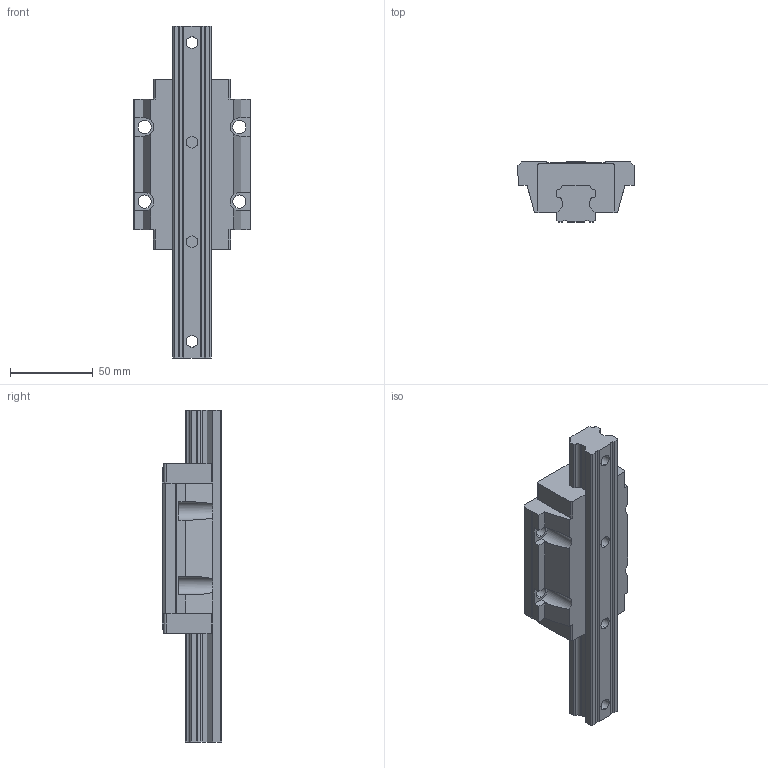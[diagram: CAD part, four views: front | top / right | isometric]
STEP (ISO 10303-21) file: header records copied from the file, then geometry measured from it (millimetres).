
FILE_DESCRIPTION (( 'STEP AP214' ), '1' );
FILE_NAME ('2.1010 Lineaarikelkka HGW25HA.STEP', '2024-04-25T12:19:44', ( '' ), ( '' ), 'SwSTEP 2.0', 'SolidWorks 2024', '' );
FILE_SCHEMA (( 'AUTOMOTIVE_DESIGN' ));
Length unit declared in the file: millimetre
Products named in the file (1): 2.1010 Lineaarikelkka HGW25HA
Bounding box: 70 x 36 x 200 mm (x, y, z)
Volume: 222930.8 mm3; surface area: 48396.6 mm2
Topology: 2 solids, 2 shells, 152 faces, 432 edges, 288 vertices
Faces by surface type: plane 112, cylinder 40
Entity records: 6652 total; most frequent: CARTESIAN_POINT 897, ORIENTED_EDGE 864, DIRECTION 810, EDGE_CURVE 432, LINE 344, VECTOR 344, VERTEX_POINT 288, AXIS2_PLACEMENT_3D 233
